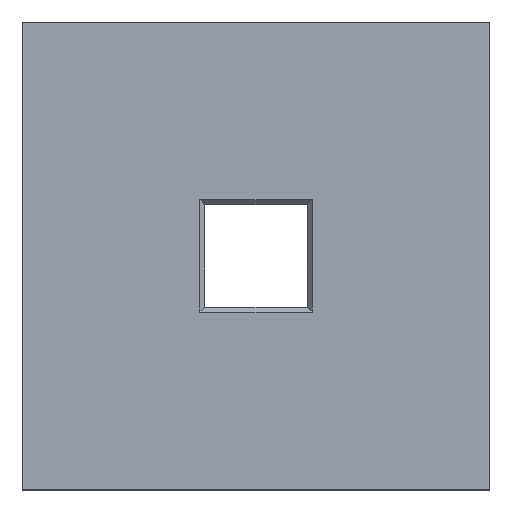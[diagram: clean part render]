
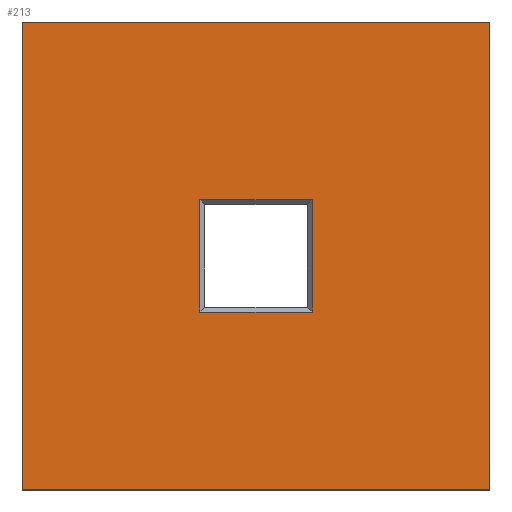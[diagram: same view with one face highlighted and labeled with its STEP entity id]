
A CAD part, top view. The second image highlights one B-rep face of the part: STEP entity #213.
In plain terms, the highlighted planar face has unit normal (0, 0, 1).
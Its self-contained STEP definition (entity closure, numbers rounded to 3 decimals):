
#24 = VERTEX_POINT('',#25);
#25 = CARTESIAN_POINT('',(-50.,-50.,30.));
#32 = PLANE('',#33);
#33 = AXIS2_PLACEMENT_3D('',#34,#35,#36);
#34 = CARTESIAN_POINT('',(-50.,-50.,0.));
#35 = DIRECTION('',(1.,0.,0.));
#36 = DIRECTION('',(0.,0.,1.));
#44 = PLANE('',#45);
#45 = AXIS2_PLACEMENT_3D('',#46,#47,#48);
#46 = CARTESIAN_POINT('',(-50.,-50.,0.));
#47 = DIRECTION('',(0.,1.,0.));
#48 = DIRECTION('',(0.,0.,1.));
#85 = VERTEX_POINT('',#86);
#86 = CARTESIAN_POINT('',(-50.,50.,30.));
#100 = PLANE('',#101);
#101 = AXIS2_PLACEMENT_3D('',#102,#103,#104);
#102 = CARTESIAN_POINT('',(-50.,50.,0.));
#103 = DIRECTION('',(0.,1.,0.));
#104 = DIRECTION('',(0.,0.,1.));
#112 = EDGE_CURVE('',#24,#85,#113,.T.);
#113 = SURFACE_CURVE('',#114,(#118,#125),.PCURVE_S1.);
#114 = LINE('',#115,#116);
#115 = CARTESIAN_POINT('',(-50.,-50.,30.));
#116 = VECTOR('',#117,1.);
#117 = DIRECTION('',(0.,1.,0.));
#118 = PCURVE('',#32,#119);
#119 = DEFINITIONAL_REPRESENTATION('',(#120),#124);
#120 = LINE('',#121,#122);
#121 = CARTESIAN_POINT('',(30.,0.));
#122 = VECTOR('',#123,1.);
#123 = DIRECTION('',(0.,-1.));
#124 = ( GEOMETRIC_REPRESENTATION_CONTEXT(2) 
PARAMETRIC_REPRESENTATION_CONTEXT() REPRESENTATION_CONTEXT('2D SPACE',''
  ) );
#125 = PCURVE('',#126,#131);
#126 = PLANE('',#127);
#127 = AXIS2_PLACEMENT_3D('',#128,#129,#130);
#128 = CARTESIAN_POINT('',(-50.,-50.,30.));
#129 = DIRECTION('',(0.,0.,1.));
#130 = DIRECTION('',(1.,0.,0.));
#131 = DEFINITIONAL_REPRESENTATION('',(#132),#136);
#132 = LINE('',#133,#134);
#133 = CARTESIAN_POINT('',(0.,0.));
#134 = VECTOR('',#135,1.);
#135 = DIRECTION('',(0.,1.));
#136 = ( GEOMETRIC_REPRESENTATION_CONTEXT(2) 
PARAMETRIC_REPRESENTATION_CONTEXT() REPRESENTATION_CONTEXT('2D SPACE',''
  ) );
#165 = EDGE_CURVE('',#24,#166,#168,.T.);
#166 = VERTEX_POINT('',#167);
#167 = CARTESIAN_POINT('',(50.,-50.,30.));
#168 = SURFACE_CURVE('',#169,(#173,#180),.PCURVE_S1.);
#169 = LINE('',#170,#171);
#170 = CARTESIAN_POINT('',(-50.,-50.,30.));
#171 = VECTOR('',#172,1.);
#172 = DIRECTION('',(1.,0.,0.));
#173 = PCURVE('',#44,#174);
#174 = DEFINITIONAL_REPRESENTATION('',(#175),#179);
#175 = LINE('',#176,#177);
#176 = CARTESIAN_POINT('',(30.,0.));
#177 = VECTOR('',#178,1.);
#178 = DIRECTION('',(0.,1.));
#179 = ( GEOMETRIC_REPRESENTATION_CONTEXT(2) 
PARAMETRIC_REPRESENTATION_CONTEXT() REPRESENTATION_CONTEXT('2D SPACE',''
  ) );
#180 = PCURVE('',#126,#181);
#181 = DEFINITIONAL_REPRESENTATION('',(#182),#186);
#182 = LINE('',#183,#184);
#183 = CARTESIAN_POINT('',(0.,0.));
#184 = VECTOR('',#185,1.);
#185 = DIRECTION('',(1.,0.));
#186 = ( GEOMETRIC_REPRESENTATION_CONTEXT(2) 
PARAMETRIC_REPRESENTATION_CONTEXT() REPRESENTATION_CONTEXT('2D SPACE',''
  ) );
#202 = PLANE('',#203);
#203 = AXIS2_PLACEMENT_3D('',#204,#205,#206);
#204 = CARTESIAN_POINT('',(50.,-50.,0.));
#205 = DIRECTION('',(1.,0.,0.));
#206 = DIRECTION('',(0.,0.,1.));
#213 = ADVANCED_FACE('',(#214,#262),#126,.T.);
#214 = FACE_BOUND('',#215,.T.);
#215 = EDGE_LOOP('',(#216,#217,#218,#241));
#216 = ORIENTED_EDGE('',*,*,#112,.F.);
#217 = ORIENTED_EDGE('',*,*,#165,.T.);
#218 = ORIENTED_EDGE('',*,*,#219,.T.);
#219 = EDGE_CURVE('',#166,#220,#222,.T.);
#220 = VERTEX_POINT('',#221);
#221 = CARTESIAN_POINT('',(50.,50.,30.));
#222 = SURFACE_CURVE('',#223,(#227,#234),.PCURVE_S1.);
#223 = LINE('',#224,#225);
#224 = CARTESIAN_POINT('',(50.,-50.,30.));
#225 = VECTOR('',#226,1.);
#226 = DIRECTION('',(0.,1.,0.));
#227 = PCURVE('',#126,#228);
#228 = DEFINITIONAL_REPRESENTATION('',(#229),#233);
#229 = LINE('',#230,#231);
#230 = CARTESIAN_POINT('',(100.,0.));
#231 = VECTOR('',#232,1.);
#232 = DIRECTION('',(0.,1.));
#233 = ( GEOMETRIC_REPRESENTATION_CONTEXT(2) 
PARAMETRIC_REPRESENTATION_CONTEXT() REPRESENTATION_CONTEXT('2D SPACE',''
  ) );
#234 = PCURVE('',#202,#235);
#235 = DEFINITIONAL_REPRESENTATION('',(#236),#240);
#236 = LINE('',#237,#238);
#237 = CARTESIAN_POINT('',(30.,0.));
#238 = VECTOR('',#239,1.);
#239 = DIRECTION('',(0.,-1.));
#240 = ( GEOMETRIC_REPRESENTATION_CONTEXT(2) 
PARAMETRIC_REPRESENTATION_CONTEXT() REPRESENTATION_CONTEXT('2D SPACE',''
  ) );
#241 = ORIENTED_EDGE('',*,*,#242,.F.);
#242 = EDGE_CURVE('',#85,#220,#243,.T.);
#243 = SURFACE_CURVE('',#244,(#248,#255),.PCURVE_S1.);
#244 = LINE('',#245,#246);
#245 = CARTESIAN_POINT('',(-50.,50.,30.));
#246 = VECTOR('',#247,1.);
#247 = DIRECTION('',(1.,0.,0.));
#248 = PCURVE('',#126,#249);
#249 = DEFINITIONAL_REPRESENTATION('',(#250),#254);
#250 = LINE('',#251,#252);
#251 = CARTESIAN_POINT('',(0.,100.));
#252 = VECTOR('',#253,1.);
#253 = DIRECTION('',(1.,0.));
#254 = ( GEOMETRIC_REPRESENTATION_CONTEXT(2) 
PARAMETRIC_REPRESENTATION_CONTEXT() REPRESENTATION_CONTEXT('2D SPACE',''
  ) );
#255 = PCURVE('',#100,#256);
#256 = DEFINITIONAL_REPRESENTATION('',(#257),#261);
#257 = LINE('',#258,#259);
#258 = CARTESIAN_POINT('',(30.,0.));
#259 = VECTOR('',#260,1.);
#260 = DIRECTION('',(0.,1.));
#261 = ( GEOMETRIC_REPRESENTATION_CONTEXT(2) 
PARAMETRIC_REPRESENTATION_CONTEXT() REPRESENTATION_CONTEXT('2D SPACE',''
  ) );
#262 = FACE_BOUND('',#263,.T.);
#263 = EDGE_LOOP('',(#264,#294,#322,#350));
#264 = ORIENTED_EDGE('',*,*,#265,.F.);
#265 = EDGE_CURVE('',#266,#268,#270,.T.);
#266 = VERTEX_POINT('',#267);
#267 = CARTESIAN_POINT('',(-12.,-12.,30.));
#268 = VERTEX_POINT('',#269);
#269 = CARTESIAN_POINT('',(12.,-12.,30.));
#270 = SURFACE_CURVE('',#271,(#275,#282),.PCURVE_S1.);
#271 = LINE('',#272,#273);
#272 = CARTESIAN_POINT('',(-12.,-12.,30.));
#273 = VECTOR('',#274,1.);
#274 = DIRECTION('',(1.,0.,0.));
#275 = PCURVE('',#126,#276);
#276 = DEFINITIONAL_REPRESENTATION('',(#277),#281);
#277 = LINE('',#278,#279);
#278 = CARTESIAN_POINT('',(38.,38.));
#279 = VECTOR('',#280,1.);
#280 = DIRECTION('',(1.,0.));
#281 = ( GEOMETRIC_REPRESENTATION_CONTEXT(2) 
PARAMETRIC_REPRESENTATION_CONTEXT() REPRESENTATION_CONTEXT('2D SPACE',''
  ) );
#282 = PCURVE('',#283,#288);
#283 = B_SPLINE_SURFACE_WITH_KNOTS('',1,1,(
    (#284,#285)
    ,(#286,#287
  )),.UNSPECIFIED.,.F.,.F.,.F.,(2,2),(2,2),(0.,24.),(0.,1.),
  .PIECEWISE_BEZIER_KNOTS.);
#284 = CARTESIAN_POINT('',(-11.,-11.,29.));
#285 = CARTESIAN_POINT('',(-12.,-12.,30.));
#286 = CARTESIAN_POINT('',(11.,-11.,29.));
#287 = CARTESIAN_POINT('',(12.,-12.,30.));
#288 = DEFINITIONAL_REPRESENTATION('',(#289),#293);
#289 = LINE('',#290,#291);
#290 = CARTESIAN_POINT('',(0.,1.));
#291 = VECTOR('',#292,1.);
#292 = DIRECTION('',(1.,0.));
#293 = ( GEOMETRIC_REPRESENTATION_CONTEXT(2) 
PARAMETRIC_REPRESENTATION_CONTEXT() REPRESENTATION_CONTEXT('2D SPACE',''
  ) );
#294 = ORIENTED_EDGE('',*,*,#295,.F.);
#295 = EDGE_CURVE('',#296,#266,#298,.T.);
#296 = VERTEX_POINT('',#297);
#297 = CARTESIAN_POINT('',(-12.,12.,30.));
#298 = SURFACE_CURVE('',#299,(#303,#310),.PCURVE_S1.);
#299 = LINE('',#300,#301);
#300 = CARTESIAN_POINT('',(-12.,12.,30.));
#301 = VECTOR('',#302,1.);
#302 = DIRECTION('',(0.,-1.,0.));
#303 = PCURVE('',#126,#304);
#304 = DEFINITIONAL_REPRESENTATION('',(#305),#309);
#305 = LINE('',#306,#307);
#306 = CARTESIAN_POINT('',(38.,62.));
#307 = VECTOR('',#308,1.);
#308 = DIRECTION('',(0.,-1.));
#309 = ( GEOMETRIC_REPRESENTATION_CONTEXT(2) 
PARAMETRIC_REPRESENTATION_CONTEXT() REPRESENTATION_CONTEXT('2D SPACE',''
  ) );
#310 = PCURVE('',#311,#316);
#311 = B_SPLINE_SURFACE_WITH_KNOTS('',1,1,(
    (#312,#313)
    ,(#314,#315
  )),.UNSPECIFIED.,.F.,.F.,.F.,(2,2),(2,2),(0.,24.),(0.,1.),
  .PIECEWISE_BEZIER_KNOTS.);
#312 = CARTESIAN_POINT('',(-11.,11.,29.));
#313 = CARTESIAN_POINT('',(-12.,12.,30.));
#314 = CARTESIAN_POINT('',(-11.,-11.,29.));
#315 = CARTESIAN_POINT('',(-12.,-12.,30.));
#316 = DEFINITIONAL_REPRESENTATION('',(#317),#321);
#317 = LINE('',#318,#319);
#318 = CARTESIAN_POINT('',(0.,1.));
#319 = VECTOR('',#320,1.);
#320 = DIRECTION('',(1.,0.));
#321 = ( GEOMETRIC_REPRESENTATION_CONTEXT(2) 
PARAMETRIC_REPRESENTATION_CONTEXT() REPRESENTATION_CONTEXT('2D SPACE',''
  ) );
#322 = ORIENTED_EDGE('',*,*,#323,.F.);
#323 = EDGE_CURVE('',#324,#296,#326,.T.);
#324 = VERTEX_POINT('',#325);
#325 = CARTESIAN_POINT('',(12.,12.,30.));
#326 = SURFACE_CURVE('',#327,(#331,#338),.PCURVE_S1.);
#327 = LINE('',#328,#329);
#328 = CARTESIAN_POINT('',(12.,12.,30.));
#329 = VECTOR('',#330,1.);
#330 = DIRECTION('',(-1.,0.,0.));
#331 = PCURVE('',#126,#332);
#332 = DEFINITIONAL_REPRESENTATION('',(#333),#337);
#333 = LINE('',#334,#335);
#334 = CARTESIAN_POINT('',(62.,62.));
#335 = VECTOR('',#336,1.);
#336 = DIRECTION('',(-1.,0.));
#337 = ( GEOMETRIC_REPRESENTATION_CONTEXT(2) 
PARAMETRIC_REPRESENTATION_CONTEXT() REPRESENTATION_CONTEXT('2D SPACE',''
  ) );
#338 = PCURVE('',#339,#344);
#339 = B_SPLINE_SURFACE_WITH_KNOTS('',1,1,(
    (#340,#341)
    ,(#342,#343
  )),.UNSPECIFIED.,.F.,.F.,.F.,(2,2),(2,2),(0.,24.),(0.,1.),
  .PIECEWISE_BEZIER_KNOTS.);
#340 = CARTESIAN_POINT('',(11.,11.,29.));
#341 = CARTESIAN_POINT('',(12.,12.,30.));
#342 = CARTESIAN_POINT('',(-11.,11.,29.));
#343 = CARTESIAN_POINT('',(-12.,12.,30.));
#344 = DEFINITIONAL_REPRESENTATION('',(#345),#349);
#345 = LINE('',#346,#347);
#346 = CARTESIAN_POINT('',(0.,1.));
#347 = VECTOR('',#348,1.);
#348 = DIRECTION('',(1.,0.));
#349 = ( GEOMETRIC_REPRESENTATION_CONTEXT(2) 
PARAMETRIC_REPRESENTATION_CONTEXT() REPRESENTATION_CONTEXT('2D SPACE',''
  ) );
#350 = ORIENTED_EDGE('',*,*,#351,.F.);
#351 = EDGE_CURVE('',#268,#324,#352,.T.);
#352 = SURFACE_CURVE('',#353,(#357,#364),.PCURVE_S1.);
#353 = LINE('',#354,#355);
#354 = CARTESIAN_POINT('',(12.,-12.,30.));
#355 = VECTOR('',#356,1.);
#356 = DIRECTION('',(0.,1.,0.));
#357 = PCURVE('',#126,#358);
#358 = DEFINITIONAL_REPRESENTATION('',(#359),#363);
#359 = LINE('',#360,#361);
#360 = CARTESIAN_POINT('',(62.,38.));
#361 = VECTOR('',#362,1.);
#362 = DIRECTION('',(0.,1.));
#363 = ( GEOMETRIC_REPRESENTATION_CONTEXT(2) 
PARAMETRIC_REPRESENTATION_CONTEXT() REPRESENTATION_CONTEXT('2D SPACE',''
  ) );
#364 = PCURVE('',#365,#370);
#365 = B_SPLINE_SURFACE_WITH_KNOTS('',1,1,(
    (#366,#367)
    ,(#368,#369
  )),.UNSPECIFIED.,.F.,.F.,.F.,(2,2),(2,2),(0.,24.),(0.,1.),
  .PIECEWISE_BEZIER_KNOTS.);
#366 = CARTESIAN_POINT('',(11.,-11.,29.));
#367 = CARTESIAN_POINT('',(12.,-12.,30.));
#368 = CARTESIAN_POINT('',(11.,11.,29.));
#369 = CARTESIAN_POINT('',(12.,12.,30.));
#370 = DEFINITIONAL_REPRESENTATION('',(#371),#375);
#371 = LINE('',#372,#373);
#372 = CARTESIAN_POINT('',(0.,1.));
#373 = VECTOR('',#374,1.);
#374 = DIRECTION('',(1.,0.));
#375 = ( GEOMETRIC_REPRESENTATION_CONTEXT(2) 
PARAMETRIC_REPRESENTATION_CONTEXT() REPRESENTATION_CONTEXT('2D SPACE',''
  ) );
